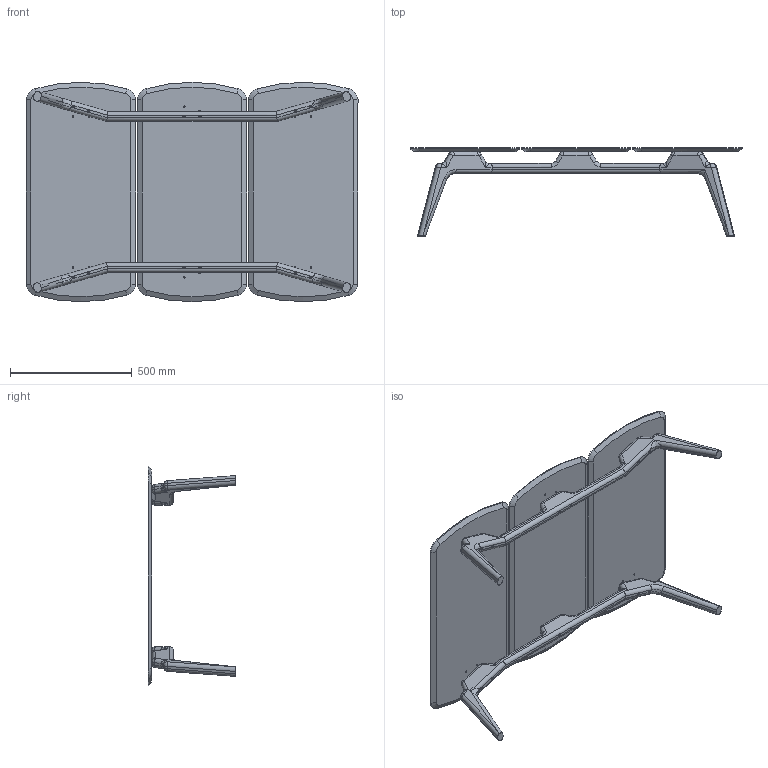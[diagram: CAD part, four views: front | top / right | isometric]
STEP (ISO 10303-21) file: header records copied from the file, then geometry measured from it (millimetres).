
FILE_DESCRIPTION (( 'STEP AP214' ), '1' );
FILE_NAME ('MESA_MIXTA_L_TRIO.STEP', '2019-08-02T09:45:28', ( '' ), ( '' ), 'SwSTEP 2.0', 'SolidWorks 2016', '' );
FILE_SCHEMA (( 'AUTOMOTIVE_DESIGN' ));
Length unit declared in the file: millimetre
Products named in the file (5): MESA_MIXTA_L_TRIO; PATAS_MADERA_ALTURA DOBLE_DIAGONAL_2_MESA_MODULAR_2_SOBRES; PATAS_MADERA_ALTURA DOBLE_DIAGONAL_1; NUEVO_SOBRE_CHAPADO_RECTO_90_MESA_MODULAR_2_SOBRES; TRAVESAÑO_2_SOBRES
Assembly tree (9 placements, depth 2):
  MESA_MIXTA_L_TRIO
    TRAVESAÑO_2_SOBRES  x2
    PATAS_MADERA_ALTURA DOBLE_DIAGONAL_2_MESA_MODULAR_2_SOBRES  x2
    PATAS_MADERA_ALTURA DOBLE_DIAGONAL_1  x2
    NUEVO_SOBRE_CHAPADO_RECTO_90_MESA_MODULAR_2_SOBRES  x3
Bounding box: 1362 x 360 x 900 mm (x, y, z)
Volume: 23455667.3 mm3; surface area: 3015476.1 mm2
Topology: 9 solids, 9 shells, 450 faces, 1072 edges, 644 vertices
Faces by surface type: cylinder 234, plane 134, torus 44, bspline 20, cone 18
Entity records: 6759 total; most frequent: CARTESIAN_POINT 1802, DIRECTION 1030, ORIENTED_EDGE 964, EDGE_CURVE 482, AXIS2_PLACEMENT_3D 410, VERTEX_POINT 294, EDGE_LOOP 224, VECTOR 210
